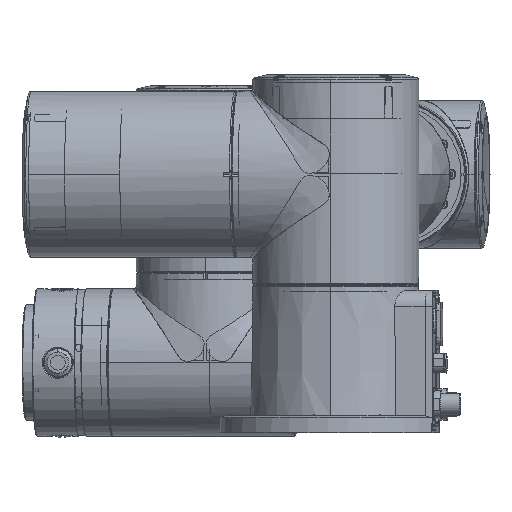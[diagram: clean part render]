
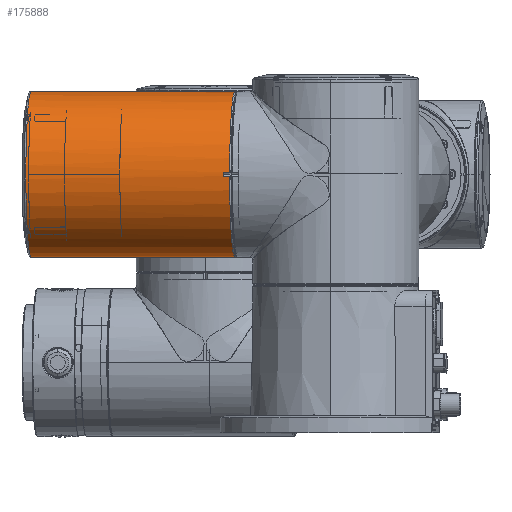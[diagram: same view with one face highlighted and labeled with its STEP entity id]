
A CAD part, left-side view. The second image highlights one B-rep face of the part: STEP entity #175888.
In plain terms, the highlighted cylindrical face has radius 45 mm (diameter 90 mm), a partial arc.
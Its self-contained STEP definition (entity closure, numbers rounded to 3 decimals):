
#2550 = CIRCLE ( 'NONE', #145647, 45. ) ;
#7023 = CIRCLE ( 'NONE', #142942, 45. ) ;
#7535 = ORIENTED_EDGE ( 'NONE', *, *, #143095, .T. ) ;
#8820 = DIRECTION ( 'NONE',  ( 0., -1., 0. ) ) ;
#10822 = VERTEX_POINT ( 'NONE', #110519 ) ;
#16523 = CARTESIAN_POINT ( 'NONE',  ( 51.4, 45., -50. ) ) ;
#18751 = CARTESIAN_POINT ( 'NONE',  ( 54., 45., -50. ) ) ;
#22086 = DIRECTION ( 'NONE',  ( -1., 0., 0. ) ) ;
#22766 = CARTESIAN_POINT ( 'NONE',  ( -55.9, 1.005, -94.989 ) ) ;
#24456 = VECTOR ( 'NONE', #131115, 1000. ) ;
#28707 = EDGE_LOOP ( 'NONE', ( #184337, #192908, #7535, #120496, #108183, #113700, #34936, #39194, #129388, #115149, #100881 ) ) ;
#30345 = LINE ( 'NONE', #91622, #123000 ) ;
#31769 = DIRECTION ( 'NONE',  ( 0., -1., 0. ) ) ;
#34429 = DIRECTION ( 'NONE',  ( 0., -1., 0. ) ) ;
#34936 = ORIENTED_EDGE ( 'NONE', *, *, #96941, .T. ) ;
#35620 = CARTESIAN_POINT ( 'NONE',  ( -59.2, -45., -50. ) ) ;
#36961 = CARTESIAN_POINT ( 'NONE',  ( -55.9, -1.005, -94.989 ) ) ;
#38159 = VERTEX_POINT ( 'NONE', #170051 ) ;
#39194 = ORIENTED_EDGE ( 'NONE', *, *, #178051, .T. ) ;
#39656 = LINE ( 'NONE', #98330, #159133 ) ;
#49045 = VERTEX_POINT ( 'NONE', #88443 ) ;
#49757 = VERTEX_POINT ( 'NONE', #145489 ) ;
#50960 = DIRECTION ( 'NONE',  ( 0., -1., 0. ) ) ;
#51639 = CARTESIAN_POINT ( 'NONE',  ( 51.4, 0., -50. ) ) ;
#52593 = EDGE_CURVE ( 'NONE', #71008, #158406, #2550, .T. ) ;
#53506 = DIRECTION ( 'NONE',  ( -1., 0., 0. ) ) ;
#53926 = CARTESIAN_POINT ( 'NONE',  ( 51.4, 0., -50. ) ) ;
#58899 = DIRECTION ( 'NONE',  ( -1., 0., 0. ) ) ;
#59161 = CARTESIAN_POINT ( 'NONE',  ( 0., -45., -50. ) ) ;
#59221 = EDGE_CURVE ( 'NONE', #200652, #49045, #120633, .T. ) ;
#62712 = AXIS2_PLACEMENT_3D ( 'NONE', #79550, #141053, #123303 ) ;
#66542 = EDGE_CURVE ( 'NONE', #128095, #187001, #39656, .T. ) ;
#70451 = EDGE_CURVE ( 'NONE', #200652, #10822, #107046, .T. ) ;
#71008 = VERTEX_POINT ( 'NONE', #35620 ) ;
#71096 = VERTEX_POINT ( 'NONE', #36961 ) ;
#73386 = DIRECTION ( 'NONE',  ( 1., 0., 0. ) ) ;
#75607 = LINE ( 'NONE', #179499, #24456 ) ;
#79550 = CARTESIAN_POINT ( 'NONE',  ( -55.9, 0., -50. ) ) ;
#88443 = CARTESIAN_POINT ( 'NONE',  ( 0., 45., -50. ) ) ;
#89266 = CIRCLE ( 'NONE', #62712, 45. ) ;
#91622 = CARTESIAN_POINT ( 'NONE',  ( 54., -45., -50. ) ) ;
#95266 = AXIS2_PLACEMENT_3D ( 'NONE', #127704, #111329, #34429 ) ;
#96941 = EDGE_CURVE ( 'NONE', #158406, #71096, #75607, .T. ) ;
#98330 = CARTESIAN_POINT ( 'NONE',  ( 54., 1.005, -94.989 ) ) ;
#100881 = ORIENTED_EDGE ( 'NONE', *, *, #198714, .F. ) ;
#104162 = EDGE_CURVE ( 'NONE', #38159, #121341, #30345, .T. ) ;
#104795 = DIRECTION ( 'NONE',  ( 0., -1., 0. ) ) ;
#107046 = CIRCLE ( 'NONE', #171907, 45. ) ;
#108183 = ORIENTED_EDGE ( 'NONE', *, *, #157629, .T. ) ;
#110088 = EDGE_CURVE ( 'NONE', #187001, #49757, #125693, .T. ) ;
#110519 = CARTESIAN_POINT ( 'NONE',  ( 51.4, 31.82, -81.82 ) ) ;
#111329 = DIRECTION ( 'NONE',  ( -1., 0., 0. ) ) ;
#113700 = ORIENTED_EDGE ( 'NONE', *, *, #52593, .T. ) ;
#114008 = DIRECTION ( 'NONE',  ( -1., 0., 0. ) ) ;
#115149 = ORIENTED_EDGE ( 'NONE', *, *, #110088, .T. ) ;
#116652 = LINE ( 'NONE', #146221, #189837 ) ;
#120496 = ORIENTED_EDGE ( 'NONE', *, *, #104162, .T. ) ;
#120633 = LINE ( 'NONE', #18751, #130407 ) ;
#121144 = CARTESIAN_POINT ( 'NONE',  ( -59.2, 0., -50. ) ) ;
#121341 = VERTEX_POINT ( 'NONE', #59161 ) ;
#123000 = VECTOR ( 'NONE', #58899, 1000. ) ;
#123303 = DIRECTION ( 'NONE',  ( 0., -1., 0. ) ) ;
#123735 = DIRECTION ( 'NONE',  ( 1., 0., 0. ) ) ;
#125693 = CIRCLE ( 'NONE', #147407, 45. ) ;
#127704 = CARTESIAN_POINT ( 'NONE',  ( 54., 0., -50. ) ) ;
#128048 = DIRECTION ( 'NONE',  ( -1., 0., 0. ) ) ;
#128095 = VERTEX_POINT ( 'NONE', #22766 ) ;
#129388 = ORIENTED_EDGE ( 'NONE', *, *, #66542, .T. ) ;
#130407 = VECTOR ( 'NONE', #146343, 1000. ) ;
#131115 = DIRECTION ( 'NONE',  ( 1., 0., 0. ) ) ;
#133104 = CYLINDRICAL_SURFACE ( 'NONE', #95266, 45. ) ;
#141053 = DIRECTION ( 'NONE',  ( 1., 0., 0. ) ) ;
#142942 = AXIS2_PLACEMENT_3D ( 'NONE', #53926, #149361, #8820 ) ;
#143095 = EDGE_CURVE ( 'NONE', #10822, #38159, #7023, .T. ) ;
#145489 = CARTESIAN_POINT ( 'NONE',  ( -59.2, 45., -50. ) ) ;
#145647 = AXIS2_PLACEMENT_3D ( 'NONE', #185780, #123735, #31769 ) ;
#146221 = CARTESIAN_POINT ( 'NONE',  ( 54., -45., -50. ) ) ;
#146343 = DIRECTION ( 'NONE',  ( -1., 0., 0. ) ) ;
#147407 = AXIS2_PLACEMENT_3D ( 'NONE', #121144, #73386, #104795 ) ;
#148265 = CARTESIAN_POINT ( 'NONE',  ( 54., 45., -50. ) ) ;
#149361 = DIRECTION ( 'NONE',  ( -1., 0., 0. ) ) ;
#150730 = FACE_OUTER_BOUND ( 'NONE', #28707, .T. ) ;
#157277 = CARTESIAN_POINT ( 'NONE',  ( -59.2, -1.005, -94.989 ) ) ;
#157629 = EDGE_CURVE ( 'NONE', #121341, #71008, #116652, .T. ) ;
#158406 = VERTEX_POINT ( 'NONE', #157277 ) ;
#159133 = VECTOR ( 'NONE', #114008, 1000. ) ;
#163151 = CARTESIAN_POINT ( 'NONE',  ( -59.2, 1.005, -94.989 ) ) ;
#170051 = CARTESIAN_POINT ( 'NONE',  ( 51.4, -45., -50. ) ) ;
#171907 = AXIS2_PLACEMENT_3D ( 'NONE', #51639, #128048, #50960 ) ;
#175888 = ADVANCED_FACE ( 'NONE', ( #150730 ), #133104, .T. ) ;
#178051 = EDGE_CURVE ( 'NONE', #71096, #128095, #89266, .T. ) ;
#179421 = LINE ( 'NONE', #148265, #181967 ) ;
#179499 = CARTESIAN_POINT ( 'NONE',  ( 54., -1.005, -94.989 ) ) ;
#181967 = VECTOR ( 'NONE', #53506, 1000. ) ;
#184337 = ORIENTED_EDGE ( 'NONE', *, *, #59221, .F. ) ;
#185780 = CARTESIAN_POINT ( 'NONE',  ( -59.2, 0., -50. ) ) ;
#187001 = VERTEX_POINT ( 'NONE', #163151 ) ;
#189837 = VECTOR ( 'NONE', #22086, 1000. ) ;
#192908 = ORIENTED_EDGE ( 'NONE', *, *, #70451, .T. ) ;
#198714 = EDGE_CURVE ( 'NONE', #49045, #49757, #179421, .T. ) ;
#200652 = VERTEX_POINT ( 'NONE', #16523 ) ;
